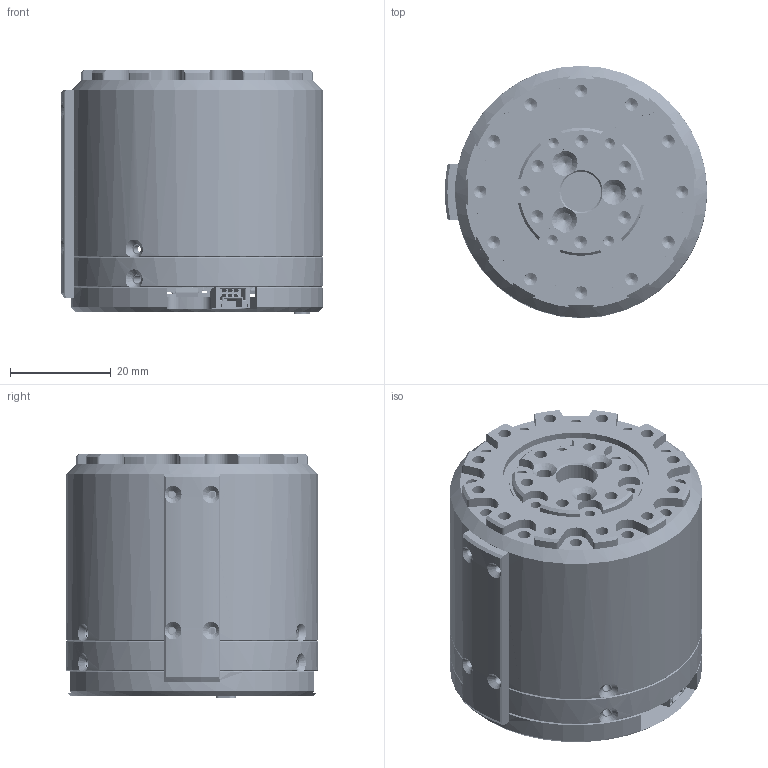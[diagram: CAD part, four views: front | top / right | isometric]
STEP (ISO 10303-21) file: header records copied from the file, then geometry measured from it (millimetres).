
FILE_DESCRIPTION (( 'STEP AP214' ), '1' );
FILE_NAME ('HTM5046_标准版本1.4简易模型.STEP', '2025-04-08T08:51:35', ( '' ), ( '' ), 'SwSTEP 2.0', 'SolidWorks 2024', '' );
FILE_SCHEMA (( 'AUTOMOTIVE_DESIGN' ));
Length unit declared in the file: millimetre
Products named in the file (9): KAA10_25.4x34.925x4.7631.4; 5046双编外壳09251.4; 输出端盖1.4_KAA10; HTM5046_标准版本1.4简易模型; 固定端盖1.4_KAA10; 3D_双编-5046-V1.0.0726_2024-09-24MY481.4; 驱动板底盖_全覆盖1.4; 导光led_4mm_美央适配.step1.4; 电机线固定架_加长1.4_双编长度
Assembly tree (8 placements, depth 2):
  HTM5046_标准版本1.4简易模型
    固定端盖1.4_KAA10
    KAA10_25.4x34.925x4.7631.4
    输出端盖1.4_KAA10
    5046双编外壳09251.4
    驱动板底盖_全覆盖1.4
    电机线固定架_加长1.4_双编长度
    3D_双编-5046-V1.0.0726_2024-09-24MY481.4
    导光led_4mm_美央适配.step1.4
Bounding box: 52 x 50 x 48.3 mm (x, y, z)
Volume: 29700.4 mm3; surface area: 36800.1 mm2
Topology: 66 solids, 66 shells, 13879 faces, 37488 edges, 24356 vertices
Faces by surface type: plane 7460, bspline 3811, cylinder 2148, sphere 222, cone 144, torus 94
Entity records: 499360 total; most frequent: CARTESIAN_POINT 175856, ORIENTED_EDGE 74452, DIRECTION 52658, EDGE_CURVE 37226, VERTEX_POINT 24349, VECTOR 23952, LINE 23952, EDGE_LOOP 15521
